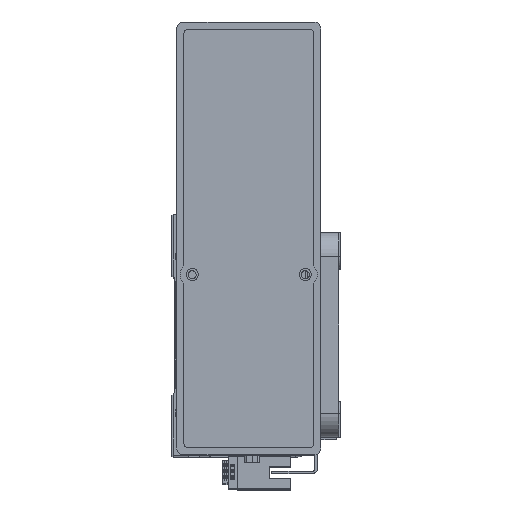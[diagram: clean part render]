
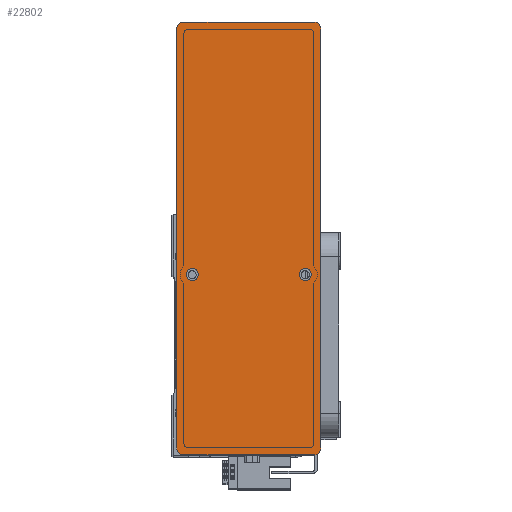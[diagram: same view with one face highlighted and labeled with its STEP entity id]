
A CAD part, top view. The second image highlights one B-rep face of the part: STEP entity #22802.
In plain terms, the highlighted planar face has unit normal (0, 0, 1) as drawn and (0, 0, -1) by its records, which use the part's own axes.
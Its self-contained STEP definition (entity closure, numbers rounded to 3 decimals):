
#102 = EDGE_CURVE ( 'NONE', #53762, #46065, #20108, .T. ) ;
#292 = EDGE_CURVE ( 'NONE', #43398, #18153, #52384, .T. ) ;
#895 = DIRECTION ( 'NONE',  ( 1., 0., 0. ) ) ;
#1145 = CARTESIAN_POINT ( 'NONE',  ( -87., 30., 0. ) ) ;
#1300 = DIRECTION ( 'NONE',  ( 1., 0., 0. ) ) ;
#1652 = EDGE_LOOP ( 'NONE', ( #32020, #18878 ) ) ;
#1897 = CARTESIAN_POINT ( 'NONE',  ( 90., -30., 0. ) ) ;
#3031 = DIRECTION ( 'NONE',  ( 0., 0., 1. ) ) ;
#3647 = CARTESIAN_POINT ( 'NONE',  ( 87., 30., 0. ) ) ;
#4145 = EDGE_CURVE ( 'NONE', #46065, #53762, #10159, .T. ) ;
#4481 = CIRCLE ( 'NONE', #54533, 3. ) ;
#4662 = CARTESIAN_POINT ( 'NONE',  ( -90., 27., 0. ) ) ;
#4913 = AXIS2_PLACEMENT_3D ( 'NONE', #46525, #20884, #50875 ) ;
#4949 = CARTESIAN_POINT ( 'NONE',  ( 90., 30., 0. ) ) ;
#5716 = DIRECTION ( 'NONE',  ( 0., 0., -1. ) ) ;
#6719 = VECTOR ( 'NONE', #34929, 1000. ) ;
#6735 = AXIS2_PLACEMENT_3D ( 'NONE', #46709, #21065, #51055 ) ;
#6762 = VERTEX_POINT ( 'NONE', #25579 ) ;
#6936 = FACE_BOUND ( 'NONE', #1652, .T. ) ;
#7258 = ORIENTED_EDGE ( 'NONE', *, *, #52679, .T. ) ;
#8336 = ORIENTED_EDGE ( 'NONE', *, *, #4145, .F. ) ;
#8491 = ORIENTED_EDGE ( 'NONE', *, *, #9443, .F. ) ;
#8565 = VERTEX_POINT ( 'NONE', #4662 ) ;
#9428 = EDGE_CURVE ( 'NONE', #6762, #35571, #40402, .T. ) ;
#9443 = EDGE_CURVE ( 'NONE', #18293, #38777, #39099, .T. ) ;
#10095 = CIRCLE ( 'NONE', #50977, 3. ) ;
#10159 = CIRCLE ( 'NONE', #13596, 2.5 ) ;
#10744 = AXIS2_PLACEMENT_3D ( 'NONE', #36996, #3031, #33058 ) ;
#12302 = DIRECTION ( 'NONE',  ( 0., 0., -1. ) ) ;
#12522 = ORIENTED_EDGE ( 'NONE', *, *, #102, .F. ) ;
#13596 = AXIS2_PLACEMENT_3D ( 'NONE', #38016, #12302, #42310 ) ;
#14616 = ORIENTED_EDGE ( 'NONE', *, *, #9428, .F. ) ;
#15389 = DIRECTION ( 'NONE',  ( 0., 0., -1. ) ) ;
#15399 = CARTESIAN_POINT ( 'NONE',  ( 90., -27., 0. ) ) ;
#15830 = EDGE_CURVE ( 'NONE', #32355, #36984, #43211, .T. ) ;
#16278 = VECTOR ( 'NONE', #31952, 1000. ) ;
#17615 = VECTOR ( 'NONE', #53333, 1000. ) ;
#18153 = VERTEX_POINT ( 'NONE', #1145 ) ;
#18170 = EDGE_CURVE ( 'NONE', #8565, #20323, #41175, .T. ) ;
#18293 = VERTEX_POINT ( 'NONE', #15399 ) ;
#18878 = ORIENTED_EDGE ( 'NONE', *, *, #15830, .F. ) ;
#18955 = AXIS2_PLACEMENT_3D ( 'NONE', #41031, #15389, #45349 ) ;
#20108 = CIRCLE ( 'NONE', #4913, 2.5 ) ;
#20323 = VERTEX_POINT ( 'NONE', #29252 ) ;
#20884 = DIRECTION ( 'NONE',  ( 0., 0., -1. ) ) ;
#21065 = DIRECTION ( 'NONE',  ( 0., 0., -1. ) ) ;
#21846 = EDGE_CURVE ( 'NONE', #6762, #20323, #4481, .T. ) ;
#22802 = ADVANCED_FACE ( 'NONE', ( #39820, #6936, #29767 ), #50117, .F. ) ;
#23274 = CARTESIAN_POINT ( 'NONE',  ( 90., -30., 0. ) ) ;
#24051 = CIRCLE ( 'NONE', #18955, 3. ) ;
#24326 = DIRECTION ( 'NONE',  ( 0., 0., -1. ) ) ;
#25206 = CARTESIAN_POINT ( 'NONE',  ( -17.5, 23.5, 0. ) ) ;
#25579 = CARTESIAN_POINT ( 'NONE',  ( -87., -30., 0. ) ) ;
#26637 = DIRECTION ( 'NONE',  ( 0., 0., -1. ) ) ;
#27045 = EDGE_CURVE ( 'NONE', #36984, #32355, #38947, .T. ) ;
#27065 = DIRECTION ( 'NONE',  ( 0., 0., -1. ) ) ;
#27284 = DIRECTION ( 'NONE',  ( 0., -1., 0. ) ) ;
#27484 = EDGE_CURVE ( 'NONE', #43398, #38777, #24051, .T. ) ;
#28211 = ORIENTED_EDGE ( 'NONE', *, *, #21846, .T. ) ;
#29252 = CARTESIAN_POINT ( 'NONE',  ( -90., -27., 0. ) ) ;
#29767 = FACE_OUTER_BOUND ( 'NONE', #50237, .T. ) ;
#31409 = CARTESIAN_POINT ( 'NONE',  ( -15., -23.5, 0. ) ) ;
#31952 = DIRECTION ( 'NONE',  ( 0., 1., 0. ) ) ;
#32020 = ORIENTED_EDGE ( 'NONE', *, *, #27045, .F. ) ;
#32355 = VERTEX_POINT ( 'NONE', #34522 ) ;
#33058 = DIRECTION ( 'NONE',  ( 1., 0., 0. ) ) ;
#33951 = ORIENTED_EDGE ( 'NONE', *, *, #18170, .F. ) ;
#34522 = CARTESIAN_POINT ( 'NONE',  ( -12.5, -23.5, 0. ) ) ;
#34790 = AXIS2_PLACEMENT_3D ( 'NONE', #52728, #27065, #1300 ) ;
#34929 = DIRECTION ( 'NONE',  ( -1., 0., 0. ) ) ;
#35420 = ORIENTED_EDGE ( 'NONE', *, *, #52502, .T. ) ;
#35571 = VERTEX_POINT ( 'NONE', #53425 ) ;
#35676 = DIRECTION ( 'NONE',  ( -1., 0., 0. ) ) ;
#36984 = VERTEX_POINT ( 'NONE', #43121 ) ;
#36996 = CARTESIAN_POINT ( 'NONE',  ( 0., 0., 0. ) ) ;
#38016 = CARTESIAN_POINT ( 'NONE',  ( -15., 23.5, 0. ) ) ;
#38550 = VECTOR ( 'NONE', #27284, 1000. ) ;
#38777 = VERTEX_POINT ( 'NONE', #45946 ) ;
#38947 = CIRCLE ( 'NONE', #6735, 2.5 ) ;
#39099 = LINE ( 'NONE', #1897, #16278 ) ;
#39820 = FACE_BOUND ( 'NONE', #47014, .T. ) ;
#40402 = LINE ( 'NONE', #23274, #17615 ) ;
#41031 = CARTESIAN_POINT ( 'NONE',  ( 87., 27., 0. ) ) ;
#41175 = LINE ( 'NONE', #44442, #38550 ) ;
#42310 = DIRECTION ( 'NONE',  ( -1., 0., 0. ) ) ;
#43121 = CARTESIAN_POINT ( 'NONE',  ( -17.5, -23.5, 0. ) ) ;
#43211 = CIRCLE ( 'NONE', #54849, 2.5 ) ;
#43398 = VERTEX_POINT ( 'NONE', #3647 ) ;
#44442 = CARTESIAN_POINT ( 'NONE',  ( -90., -30., 0. ) ) ;
#45326 = ORIENTED_EDGE ( 'NONE', *, *, #292, .F. ) ;
#45349 = DIRECTION ( 'NONE',  ( 1., 0., 0. ) ) ;
#45946 = CARTESIAN_POINT ( 'NONE',  ( 90., 27., 0. ) ) ;
#46065 = VERTEX_POINT ( 'NONE', #47494 ) ;
#46525 = CARTESIAN_POINT ( 'NONE',  ( -15., 23.5, 0. ) ) ;
#46709 = CARTESIAN_POINT ( 'NONE',  ( -15., -23.5, 0. ) ) ;
#47014 = EDGE_LOOP ( 'NONE', ( #12522, #8336 ) ) ;
#47494 = CARTESIAN_POINT ( 'NONE',  ( -12.5, 23.5, 0. ) ) ;
#50041 = CARTESIAN_POINT ( 'NONE',  ( 87., -27., 0. ) ) ;
#50117 = PLANE ( 'NONE',  #10744 ) ;
#50237 = EDGE_LOOP ( 'NONE', ( #8491, #7258, #14616, #28211, #33951, #35420, #45326, #55158 ) ) ;
#50875 = DIRECTION ( 'NONE',  ( -1., 0., 0. ) ) ;
#50977 = AXIS2_PLACEMENT_3D ( 'NONE', #50041, #24326, #54361 ) ;
#51055 = DIRECTION ( 'NONE',  ( -1., 0., 0. ) ) ;
#52325 = CARTESIAN_POINT ( 'NONE',  ( -87., -27., 0. ) ) ;
#52384 = LINE ( 'NONE', #4949, #6719 ) ;
#52422 = CIRCLE ( 'NONE', #34790, 3. ) ;
#52502 = EDGE_CURVE ( 'NONE', #8565, #18153, #52422, .T. ) ;
#52679 = EDGE_CURVE ( 'NONE', #18293, #35571, #10095, .T. ) ;
#52728 = CARTESIAN_POINT ( 'NONE',  ( -87., 27., 0. ) ) ;
#53333 = DIRECTION ( 'NONE',  ( 1., 0., 0. ) ) ;
#53425 = CARTESIAN_POINT ( 'NONE',  ( 87., -30., 0. ) ) ;
#53762 = VERTEX_POINT ( 'NONE', #25206 ) ;
#54361 = DIRECTION ( 'NONE',  ( 1., 0., 0. ) ) ;
#54533 = AXIS2_PLACEMENT_3D ( 'NONE', #52325, #26637, #895 ) ;
#54849 = AXIS2_PLACEMENT_3D ( 'NONE', #31409, #5716, #35676 ) ;
#55158 = ORIENTED_EDGE ( 'NONE', *, *, #27484, .T. ) ;
